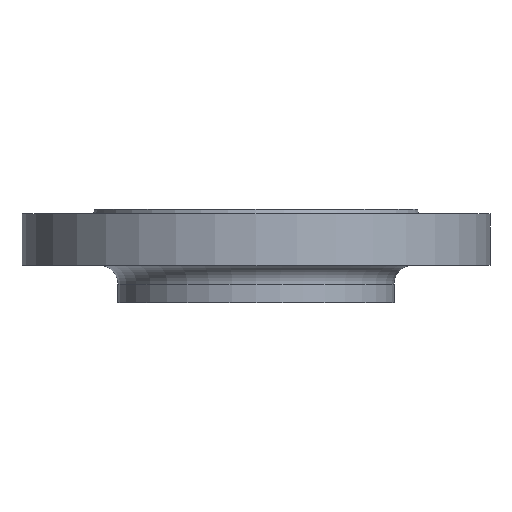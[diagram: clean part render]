
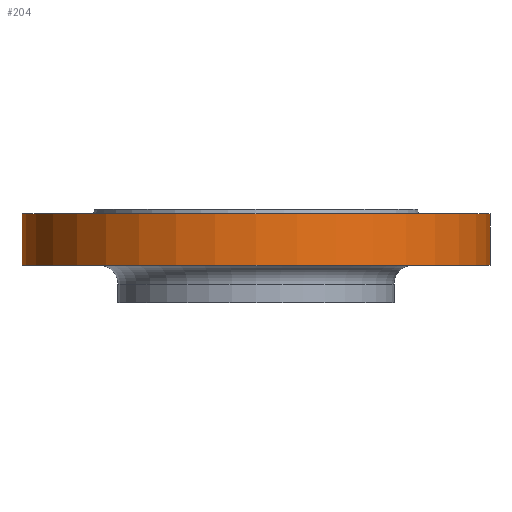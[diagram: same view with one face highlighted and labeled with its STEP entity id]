
A CAD part, front view. The second image highlights one B-rep face of the part: STEP entity #204.
In plain terms, the highlighted cylindrical face has radius 100 mm (diameter 200 mm), a partial arc.
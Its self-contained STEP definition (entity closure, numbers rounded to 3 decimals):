
#97 = CARTESIAN_POINT ( 'NONE',  ( -100., 0., -2. ) ) ;
#117 = CARTESIAN_POINT ( 'NONE',  ( 100., 0., -2. ) ) ;
#124 = CARTESIAN_POINT ( 'NONE',  ( 100., 0., -24. ) ) ;
#199 = EDGE_CURVE ( 'NONE', #949, #966, #880, .T. ) ;
#204 = ADVANCED_FACE ( 'NONE', ( #603 ), #602, .T. ) ;
#260 = DIRECTION ( 'NONE',  ( 0., 0., 1. ) ) ;
#262 = CARTESIAN_POINT ( 'NONE',  ( 100., 0., -68. ) ) ;
#263 = LINE ( 'NONE', #262, #500 ) ;
#400 = DIRECTION ( 'NONE',  ( 0., 0., 1. ) ) ;
#401 = CARTESIAN_POINT ( 'NONE',  ( -100., 0., -68. ) ) ;
#402 = LINE ( 'NONE', #401, #680 ) ;
#469 = DIRECTION ( 'NONE',  ( 1., 0., 0. ) ) ;
#470 = DIRECTION ( 'NONE',  ( 0., 0., 1. ) ) ;
#472 = CARTESIAN_POINT ( 'NONE',  ( 0., 0., -24. ) ) ;
#500 = VECTOR ( 'NONE', #260, 1000. ) ;
#502 = EDGE_CURVE ( 'NONE', #1098, #945, #672, .T. ) ;
#561 = DIRECTION ( 'NONE',  ( 0., 0., -1. ) ) ;
#573 = CARTESIAN_POINT ( 'NONE',  ( 0., 0., -2. ) ) ;
#596 = CARTESIAN_POINT ( 'NONE',  ( 0., 0., -68. ) ) ;
#598 = DIRECTION ( 'NONE',  ( -1., 0., 0. ) ) ;
#601 = DIRECTION ( 'NONE',  ( 0., 0., 1. ) ) ;
#602 = CYLINDRICAL_SURFACE ( 'NONE', #689, 100. ) ;
#603 = FACE_OUTER_BOUND ( 'NONE', #1024, .T. ) ;
#605 = DIRECTION ( 'NONE',  ( 1., 0., 0. ) ) ;
#644 = EDGE_CURVE ( 'NONE', #1098, #966, #402, .T. ) ;
#672 = CIRCLE ( 'NONE', #1072, 100. ) ;
#680 = VECTOR ( 'NONE', #400, 1000. ) ;
#689 = AXIS2_PLACEMENT_3D ( 'NONE', #596, #601, #605 ) ;
#843 = CARTESIAN_POINT ( 'NONE',  ( -100., 0., -24. ) ) ;
#852 = EDGE_CURVE ( 'NONE', #945, #949, #263, .T. ) ;
#876 = AXIS2_PLACEMENT_3D ( 'NONE', #573, #561, #598 ) ;
#880 = CIRCLE ( 'NONE', #876, 100. ) ;
#945 = VERTEX_POINT ( 'NONE', #124 ) ;
#949 = VERTEX_POINT ( 'NONE', #117 ) ;
#966 = VERTEX_POINT ( 'NONE', #97 ) ;
#1024 = EDGE_LOOP ( 'NONE', ( #1081, #1082, #1083, #1084 ) ) ;
#1072 = AXIS2_PLACEMENT_3D ( 'NONE', #472, #470, #469 ) ;
#1081 = ORIENTED_EDGE ( 'NONE', *, *, #644, .F. ) ;
#1082 = ORIENTED_EDGE ( 'NONE', *, *, #502, .T. ) ;
#1083 = ORIENTED_EDGE ( 'NONE', *, *, #852, .T. ) ;
#1084 = ORIENTED_EDGE ( 'NONE', *, *, #199, .T. ) ;
#1098 = VERTEX_POINT ( 'NONE', #843 ) ;
